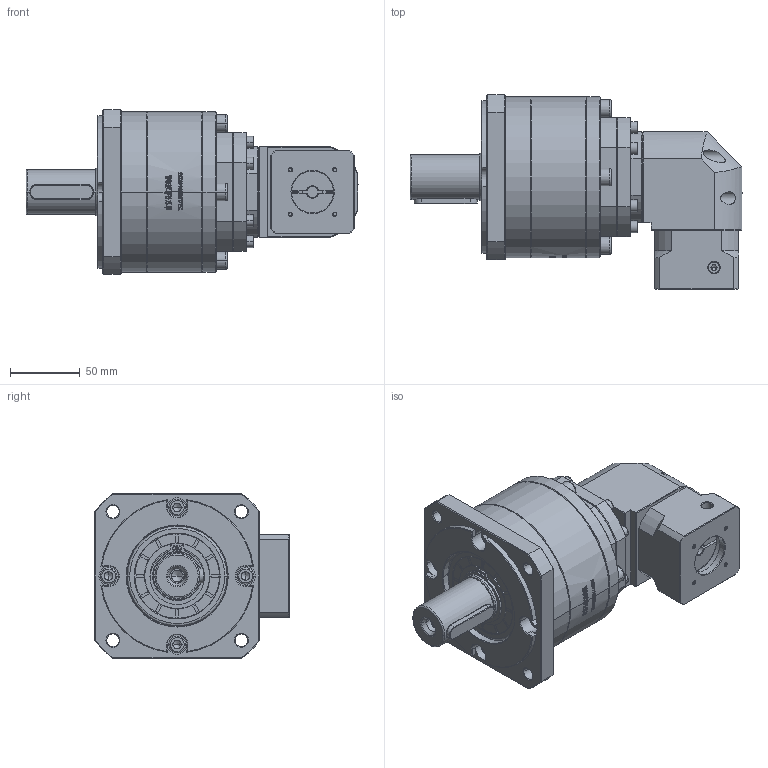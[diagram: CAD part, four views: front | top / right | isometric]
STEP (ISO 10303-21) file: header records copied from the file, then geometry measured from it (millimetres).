
FILE_DESCRIPTION (( 'STEP AP214' ), '1' );
FILE_NAME ('ZFR120A-D32-L3-8-30-45-M3.step', '2023-03-08T14:55:20', ( '' ), ( 'Microsoft' ), 'SwSTEP 2.0', 'SolidWorks 2016', '' );
FILE_SCHEMA (( 'AUTOMOTIVE_DESIGN' ));
Length unit declared in the file: millimetre
Products named in the file (1): ZFR120A-D32-L3-8-30-45-M3
Bounding box: 237.5 x 139.2 x 118 mm (x, y, z)
Volume: 1490318.9 mm3; surface area: 141633.4 mm2
Topology: 6 solids, 6 shells, 3030 faces, 7994 edges, 5133 vertices
Faces by surface type: plane 1592, bspline 661, cylinder 438, cone 339
Entity records: 166603 total; most frequent: CARTESIAN_POINT 64346, ORIENTED_EDGE 15896, DIRECTION 11704, EDGE_CURVE 7948, VERTEX_POINT 5133, VECTOR 4970, LINE 4970, AXIS2_PLACEMENT_3D 3367
